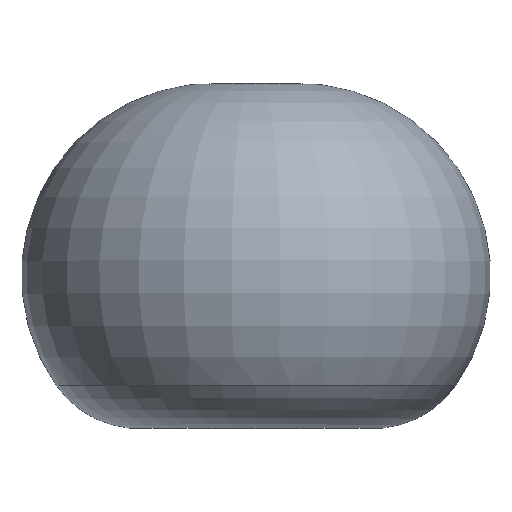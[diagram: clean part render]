
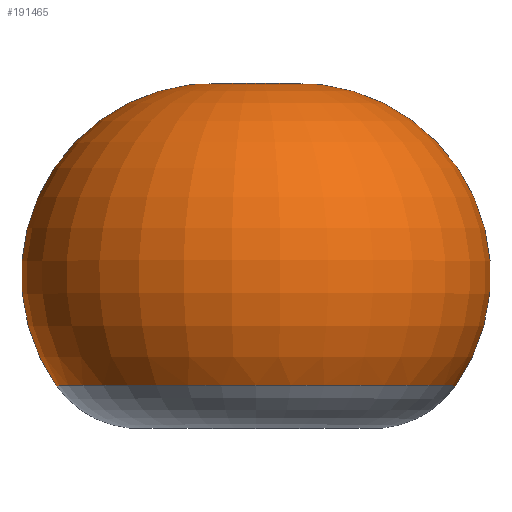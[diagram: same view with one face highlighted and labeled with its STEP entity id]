
A CAD part, top view. The second image highlights one B-rep face of the part: STEP entity #191465.
In plain terms, the highlighted toroidal (fillet/blend) face has major radius 400 mm and minor radius 1810 mm.
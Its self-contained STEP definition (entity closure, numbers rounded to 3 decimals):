
#64067 = DIRECTION ( 'NONE',  ( 1., 0., 0. ) ) ;
#64068 = DIRECTION ( 'NONE',  ( 0., -1., 0. ) ) ;
#64069 = CARTESIAN_POINT ( 'NONE',  ( 0., 550., 0. ) ) ;
#64071 = AXIS2_PLACEMENT_3D ( 'NONE', #64069, #64068, #64067 ) ;
#64078 = TOROIDAL_SURFACE ( 'NONE', #64071, 400., 1810. ) ;
#64080 = FACE_OUTER_BOUND ( 'NONE', #191466, .T. ) ;
#64098 = DIRECTION ( 'NONE',  ( -1., 0., 0. ) ) ;
#64100 = DIRECTION ( 'NONE',  ( 0., 0., -1. ) ) ;
#64101 = CARTESIAN_POINT ( 'NONE',  ( 400., 550., 0. ) ) ;
#64103 = AXIS2_PLACEMENT_3D ( 'NONE', #64101, #64100, #64098 ) ;
#64104 = CIRCLE ( 'NONE', #64103, 1810. ) ;
#64174 = CARTESIAN_POINT ( 'NONE',  ( 0., -488.173, 0. ) ) ;
#64176 = AXIS2_PLACEMENT_3D ( 'NONE', #64174, #64336, #64334 ) ;
#64188 = CIRCLE ( 'NONE', #64176, 1882.665 ) ;
#64209 = CARTESIAN_POINT ( 'NONE',  ( -1882.665, -488.173, 0. ) ) ;
#64212 = DIRECTION ( 'NONE',  ( 1., 0., 0. ) ) ;
#64213 = DIRECTION ( 'NONE',  ( 0., 0., 1. ) ) ;
#64215 = CARTESIAN_POINT ( 'NONE',  ( -400., 550., 0. ) ) ;
#64217 = AXIS2_PLACEMENT_3D ( 'NONE', #64215, #64213, #64212 ) ;
#64219 = CIRCLE ( 'NONE', #64217, 1810. ) ;
#64239 = CARTESIAN_POINT ( 'NONE',  ( 1882.665, -488.173, 0. ) ) ;
#64244 = CARTESIAN_POINT ( 'NONE',  ( 0., 2315.248, 0. ) ) ;
#64334 = DIRECTION ( 'NONE',  ( 1., 0., 0. ) ) ;
#64336 = DIRECTION ( 'NONE',  ( 0., -1., 0. ) ) ;
#191465 = ADVANCED_FACE ( 'NONE', ( #64080 ), #64078, .T. ) ;
#191466 = EDGE_LOOP ( 'NONE', ( #192300, #191504, #191511 ) ) ;
#191498 = EDGE_CURVE ( 'NONE', #191500, #191502, #64104, .T. ) ;
#191500 = VERTEX_POINT ( 'NONE', #64244 ) ;
#191502 = VERTEX_POINT ( 'NONE', #64239 ) ;
#191504 = ORIENTED_EDGE ( 'NONE', *, *, #191507, .T. ) ;
#191507 = EDGE_CURVE ( 'NONE', #191500, #191510, #64219, .T. ) ;
#191510 = VERTEX_POINT ( 'NONE', #64209 ) ;
#191511 = ORIENTED_EDGE ( 'NONE', *, *, #191514, .F. ) ;
#191514 = EDGE_CURVE ( 'NONE', #191502, #191510, #64188, .T. ) ;
#192300 = ORIENTED_EDGE ( 'NONE', *, *, #191498, .F. ) ;
